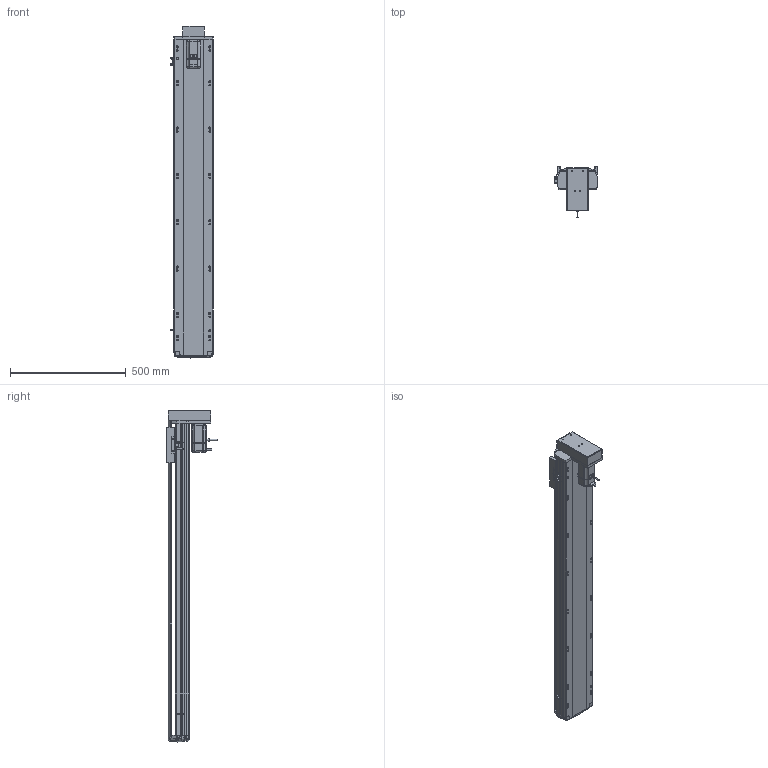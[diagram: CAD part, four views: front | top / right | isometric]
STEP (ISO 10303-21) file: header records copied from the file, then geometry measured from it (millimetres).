
FILE_DESCRIPTION (( 'STEP AP214' ), '1' );
FILE_NAME ('RTH17-XX-1150-M-M40-C4.STEP', '2025-10-24T09:09:47', ( '' ), ( '' ), 'SwSTEP 2.0', 'SolidWorks 2018', '' );
FILE_SCHEMA (( 'AUTOMOTIVE_DESIGN' ));
Length unit declared in the file: millimetre
Products named in the file (10): N_RTH17-E-004丝杆螺母连接座^RTH17-XX-XX-M-M40-C4（方程式）; N_RTH17-M-018盖子^RTH17-XX-XX-M-M40-C4（方程式）; N_OMRON EE-SX672 換覜ん^RTH17-XX-XX-M-M40-C4ㄗ源最宒ㄘ; N_RTH17-M-008-P40电机安装板下折^RTH17-XX-XX-M-M40-C4（方程式）; N_M40^RTH17-XX-XX-M-M40-C4（方程式）; N_RTH17-M-011底座^RTH17-XX-XX-M-M40-C4（方程式）; N_RTH17-M-007上盖^RTH17-XX-XX-M-M40-C4（方程式）; RTH17-XX-1150-M-M40-C4; N_RTH17-GY-001P^RTH17-XX-XX-M-M40-C4（方程式）; N_RTH-BL-012 感应片(外置)^RTH17-XX-XX-M-M40-C4（方程式）
Assembly tree (11 placements, depth 2):
  RTH17-XX-1150-M-M40-C4
    N_RTH17-M-011底座^RTH17-XX-XX-M-M40-C4（方程式）
    N_RTH17-M-007上盖^RTH17-XX-XX-M-M40-C4（方程式）
    N_M40^RTH17-XX-XX-M-M40-C4（方程式）
    N_OMRON EE-SX672 換覜ん^RTH17-XX-XX-M-M40-C4ㄗ源最宒ㄘ  x3
    N_RTH-BL-012 感应片(外置)^RTH17-XX-XX-M-M40-C4（方程式）
    N_RTH17-M-008-P40电机安装板下折^RTH17-XX-XX-M-M40-C4（方程式）
    N_RTH17-M-018盖子^RTH17-XX-XX-M-M40-C4（方程式）
    N_RTH17-E-004丝杆螺母连接座^RTH17-XX-XX-M-M40-C4（方程式）
    N_RTH17-GY-001P^RTH17-XX-XX-M-M40-C4（方程式）
Bounding box: 183.5 x 219 x 1433.19 mm (x, y, z)
Volume: 10916073 mm3; surface area: 1519968.5 mm2
Topology: 10 solids, 12 shells, 1695 faces, 4752 edges, 3100 vertices
Faces by surface type: plane 836, cylinder 492, bspline 330, cone 28, torus 9
Entity records: 50120 total; most frequent: CARTESIAN_POINT 20168, ORIENTED_EDGE 6528, DIRECTION 5380, EDGE_CURVE 3268, VERTEX_POINT 2136, LINE 1810, VECTOR 1810, AXIS2_PLACEMENT_3D 1785
